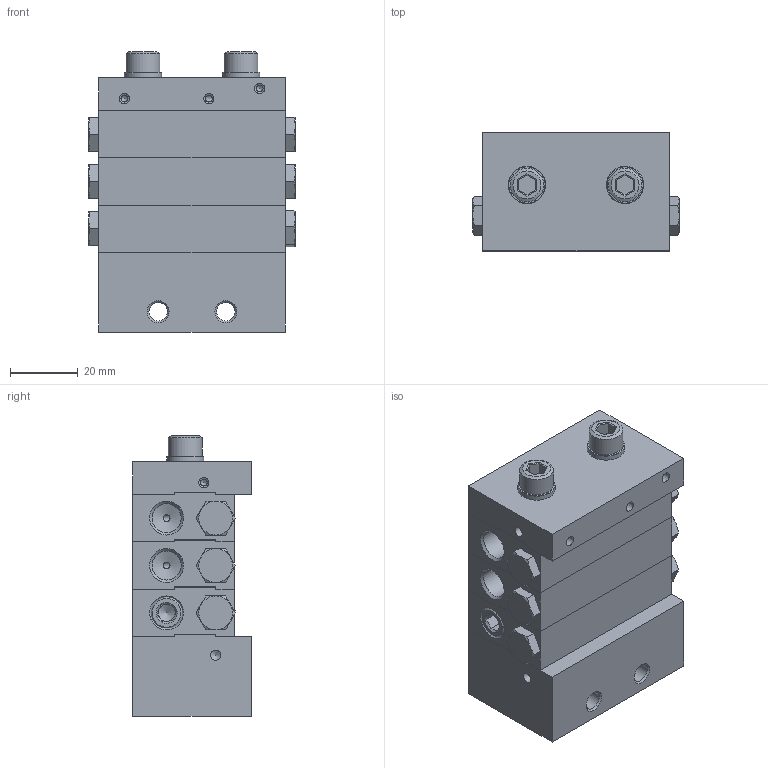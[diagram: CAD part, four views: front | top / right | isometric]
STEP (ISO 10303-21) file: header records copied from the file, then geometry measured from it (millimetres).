
FILE_DESCRIPTION (( 'STEP AP214' ), '1' );
FILE_NAME ('STW_XV_4_Auslässe.STEP', '2025-09-16T10:34:35', ( '' ), ( '' ), 'SwSTEP 2.0', 'SolidWorks 2022', '' );
FILE_SCHEMA (( 'AUTOMOTIVE_DESIGN' ));
Length unit declared in the file: millimetre
Products named in the file (10): STW_XV_END; STW_XV_Kolbenanschlag; U_Scheibe_6; O_RING_3X1; STW_XV_MITTEL_1; STW_XV_ENGANG; STW_XV_4_Auslässe; Verschlussstopfen_1_8; M6X65_DIN_912; STW_XV_Verbindungsstopen
Assembly tree (30 placements, depth 2):
  STW_XV_4_Auslässe
    STW_XV_ENGANG
    O_RING_3X1  x4
    STW_XV_MITTEL_1  x3
    STW_XV_END
    Verschlussstopfen_1_8  x8
    STW_XV_Kolbenanschlag  x6
    STW_XV_Verbindungsstopen  x3
    M6X65_DIN_912  x2
    U_Scheibe_6  x2
Bounding box: 61 x 35 x 82.8 mm (x, y, z)
Volume: 125360.8 mm3; surface area: 56055 mm2
Topology: 30 solids, 30 shells, 1142 faces, 2988 edges, 1916 vertices
Faces by surface type: plane 555, cylinder 276, cone 205, bspline 106
Full cylindrical faces by diameter (mm): 2 x89, 3 x10, 5 x38, 5.5 x2, 5.9 x2, 6 x2, 6.2 x8, 6.4 x2, 6.5 x6, 7 x6, 8 x6, 8.4 x3, 8.6 x15, 9 x7, 9.7 x8, 9.73 x3, 10 x8, 11 x2, 15 x1
Entity records: 29792 total; most frequent: CARTESIAN_POINT 17181, ORIENTED_EDGE 2526, DIRECTION 2057, EDGE_CURVE 1263, VERTEX_POINT 896, EDGE_LOOP 821, AXIS2_PLACEMENT_3D 693, LINE 671
